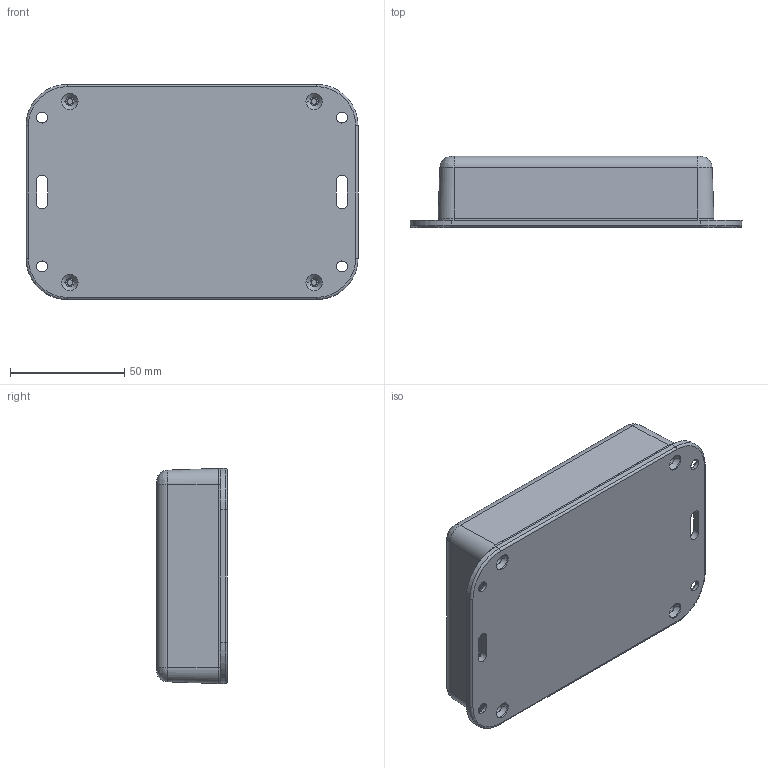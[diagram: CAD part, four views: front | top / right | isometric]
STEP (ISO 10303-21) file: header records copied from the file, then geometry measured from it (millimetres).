
FILE_DESCRIPTION (( 'STEP AP203' ), '1' );
FILE_NAME ('KM-79.STEP', '2024-06-26T08:14:03', ( '' ), ( '' ), 'SwSTEP 2.0', 'SolidWorks 2013', '' );
FILE_SCHEMA (( 'CONFIG_CONTROL_DESIGN' ));
Length unit declared in the file: millimetre
Products named in the file (3): KM-79 gora_Domy˜lna; KM-79; KM-79 dol_Domy˜lna
Assembly tree (2 placements, depth 2):
  KM-79
    KM-79 dol_Domy˜lna
    KM-79 gora_Domy˜lna
Bounding box: 145 x 31 x 94 mm (x, y, z)
Volume: 89127.1 mm3; surface area: 74989.5 mm2
Topology: 2 solids, 2 shells, 198 faces, 494 edges, 316 vertices
Faces by surface type: cylinder 68, plane 58, cone 48, bspline 24
Entity records: 8029 total; most frequent: CARTESIAN_POINT 2982, DIRECTION 1002, ORIENTED_EDGE 988, EDGE_CURVE 494, AXIS2_PLACEMENT_3D 390, VERTEX_POINT 316, EDGE_LOOP 234, VECTOR 222
